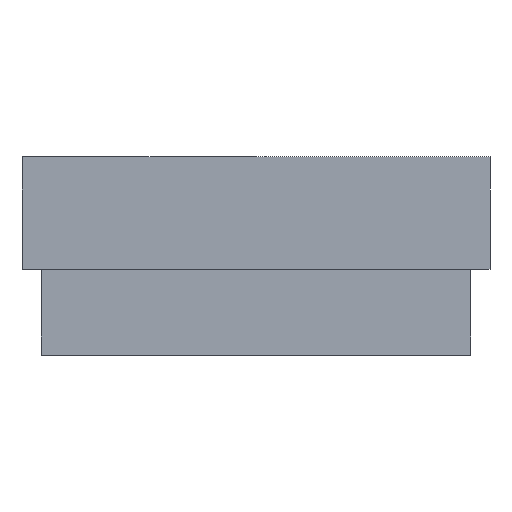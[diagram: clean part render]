
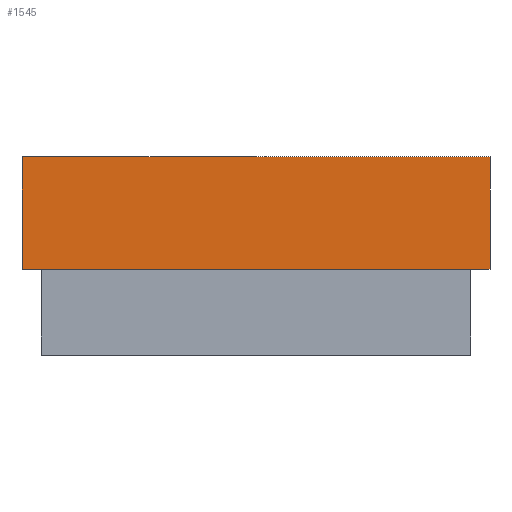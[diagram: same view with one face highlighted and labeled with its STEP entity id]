
A CAD part, left-side view. The second image highlights one B-rep face of the part: STEP entity #1545.
In plain terms, the highlighted planar face has unit normal (-1, 0, 0).
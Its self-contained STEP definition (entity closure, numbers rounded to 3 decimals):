
#126 = PLANE('',#127);
#127 = AXIS2_PLACEMENT_3D('',#128,#129,#130);
#128 = CARTESIAN_POINT('',(-27.285,-20.05,4.));
#129 = DIRECTION('',(0.,0.,1.));
#130 = DIRECTION('',(1.,0.,0.));
#166 = VERTEX_POINT('',#167);
#167 = CARTESIAN_POINT('',(-24.128,-20.05,4.));
#204 = PLANE('',#205);
#205 = AXIS2_PLACEMENT_3D('',#206,#207,#208);
#206 = CARTESIAN_POINT('',(-21.828,0.,4.));
#207 = DIRECTION('',(0.,0.,1.));
#208 = DIRECTION('',(1.,0.,-0.));
#498 = VERTEX_POINT('',#499);
#499 = CARTESIAN_POINT('',(-24.128,20.05,4.));
#522 = EDGE_CURVE('',#498,#166,#523,.T.);
#523 = SURFACE_CURVE('',#524,(#528,#535),.PCURVE_S1.);
#524 = LINE('',#525,#526);
#525 = CARTESIAN_POINT('',(-24.128,21.828,4.));
#526 = VECTOR('',#527,1.);
#527 = DIRECTION('',(0.,-1.,0.));
#528 = PCURVE('',#126,#529);
#529 = DEFINITIONAL_REPRESENTATION('',(#530),#534);
#530 = LINE('',#531,#532);
#531 = CARTESIAN_POINT('',(3.157,41.878));
#532 = VECTOR('',#533,1.);
#533 = DIRECTION('',(0.,-1.));
#534 = ( GEOMETRIC_REPRESENTATION_CONTEXT(2) 
PARAMETRIC_REPRESENTATION_CONTEXT() REPRESENTATION_CONTEXT('2D SPACE',''
  ) );
#535 = PCURVE('',#536,#541);
#536 = PLANE('',#537);
#537 = AXIS2_PLACEMENT_3D('',#538,#539,#540);
#538 = CARTESIAN_POINT('',(-24.128,21.828,4.));
#539 = DIRECTION('',(1.,0.,-0.));
#540 = DIRECTION('',(0.,-1.,0.));
#541 = DEFINITIONAL_REPRESENTATION('',(#542),#546);
#542 = LINE('',#543,#544);
#543 = CARTESIAN_POINT('',(0.,0.));
#544 = VECTOR('',#545,1.);
#545 = DIRECTION('',(1.,0.));
#546 = ( GEOMETRIC_REPRESENTATION_CONTEXT(2) 
PARAMETRIC_REPRESENTATION_CONTEXT() REPRESENTATION_CONTEXT('2D SPACE',''
  ) );
#592 = PLANE('',#593);
#593 = AXIS2_PLACEMENT_3D('',#594,#595,#596);
#594 = CARTESIAN_POINT('',(-21.828,0.,4.));
#595 = DIRECTION('',(0.,0.,1.));
#596 = DIRECTION('',(1.,0.,-0.));
#909 = EDGE_CURVE('',#166,#910,#912,.T.);
#910 = VERTEX_POINT('',#911);
#911 = CARTESIAN_POINT('',(-24.128,-21.828,4.));
#912 = SURFACE_CURVE('',#913,(#917,#924),.PCURVE_S1.);
#913 = LINE('',#914,#915);
#914 = CARTESIAN_POINT('',(-24.128,21.828,4.));
#915 = VECTOR('',#916,1.);
#916 = DIRECTION('',(0.,-1.,0.));
#917 = PCURVE('',#204,#918);
#918 = DEFINITIONAL_REPRESENTATION('',(#919),#923);
#919 = LINE('',#920,#921);
#920 = CARTESIAN_POINT('',(-2.3,21.828));
#921 = VECTOR('',#922,1.);
#922 = DIRECTION('',(0.,-1.));
#923 = ( GEOMETRIC_REPRESENTATION_CONTEXT(2) 
PARAMETRIC_REPRESENTATION_CONTEXT() REPRESENTATION_CONTEXT('2D SPACE',''
  ) );
#924 = PCURVE('',#536,#925);
#925 = DEFINITIONAL_REPRESENTATION('',(#926),#930);
#926 = LINE('',#927,#928);
#927 = CARTESIAN_POINT('',(0.,0.));
#928 = VECTOR('',#929,1.);
#929 = DIRECTION('',(1.,0.));
#930 = ( GEOMETRIC_REPRESENTATION_CONTEXT(2) 
PARAMETRIC_REPRESENTATION_CONTEXT() REPRESENTATION_CONTEXT('2D SPACE',''
  ) );
#948 = PLANE('',#949);
#949 = AXIS2_PLACEMENT_3D('',#950,#951,#952);
#950 = CARTESIAN_POINT('',(-24.128,-21.828,4.));
#951 = DIRECTION('',(0.,1.,0.));
#952 = DIRECTION('',(1.,0.,0.));
#1545 = ADVANCED_FACE('',(#1546),#536,.F.);
#1546 = FACE_BOUND('',#1547,.F.);
#1547 = EDGE_LOOP('',(#1548,#1578,#1606,#1627,#1628,#1629));
#1548 = ORIENTED_EDGE('',*,*,#1549,.T.);
#1549 = EDGE_CURVE('',#1550,#1552,#1554,.T.);
#1550 = VERTEX_POINT('',#1551);
#1551 = CARTESIAN_POINT('',(-24.128,21.828,4.));
#1552 = VERTEX_POINT('',#1553);
#1553 = CARTESIAN_POINT('',(-24.128,21.828,14.5));
#1554 = SURFACE_CURVE('',#1555,(#1559,#1566),.PCURVE_S1.);
#1555 = LINE('',#1556,#1557);
#1556 = CARTESIAN_POINT('',(-24.128,21.828,4.));
#1557 = VECTOR('',#1558,1.);
#1558 = DIRECTION('',(0.,0.,1.));
#1559 = PCURVE('',#536,#1560);
#1560 = DEFINITIONAL_REPRESENTATION('',(#1561),#1565);
#1561 = LINE('',#1562,#1563);
#1562 = CARTESIAN_POINT('',(0.,0.));
#1563 = VECTOR('',#1564,1.);
#1564 = DIRECTION('',(0.,-1.));
#1565 = ( GEOMETRIC_REPRESENTATION_CONTEXT(2) 
PARAMETRIC_REPRESENTATION_CONTEXT() REPRESENTATION_CONTEXT('2D SPACE',''
  ) );
#1566 = PCURVE('',#1567,#1572);
#1567 = PLANE('',#1568);
#1568 = AXIS2_PLACEMENT_3D('',#1569,#1570,#1571);
#1569 = CARTESIAN_POINT('',(-19.528,21.828,4.));
#1570 = DIRECTION('',(0.,-1.,0.));
#1571 = DIRECTION('',(-1.,0.,0.));
#1572 = DEFINITIONAL_REPRESENTATION('',(#1573),#1577);
#1573 = LINE('',#1574,#1575);
#1574 = CARTESIAN_POINT('',(4.6,0.));
#1575 = VECTOR('',#1576,1.);
#1576 = DIRECTION('',(0.,-1.));
#1577 = ( GEOMETRIC_REPRESENTATION_CONTEXT(2) 
PARAMETRIC_REPRESENTATION_CONTEXT() REPRESENTATION_CONTEXT('2D SPACE',''
  ) );
#1578 = ORIENTED_EDGE('',*,*,#1579,.T.);
#1579 = EDGE_CURVE('',#1552,#1580,#1582,.T.);
#1580 = VERTEX_POINT('',#1581);
#1581 = CARTESIAN_POINT('',(-24.128,-21.828,14.5));
#1582 = SURFACE_CURVE('',#1583,(#1587,#1594),.PCURVE_S1.);
#1583 = LINE('',#1584,#1585);
#1584 = CARTESIAN_POINT('',(-24.128,21.828,14.5));
#1585 = VECTOR('',#1586,1.);
#1586 = DIRECTION('',(0.,-1.,0.));
#1587 = PCURVE('',#536,#1588);
#1588 = DEFINITIONAL_REPRESENTATION('',(#1589),#1593);
#1589 = LINE('',#1590,#1591);
#1590 = CARTESIAN_POINT('',(0.,-10.5));
#1591 = VECTOR('',#1592,1.);
#1592 = DIRECTION('',(1.,0.));
#1593 = ( GEOMETRIC_REPRESENTATION_CONTEXT(2) 
PARAMETRIC_REPRESENTATION_CONTEXT() REPRESENTATION_CONTEXT('2D SPACE',''
  ) );
#1594 = PCURVE('',#1595,#1600);
#1595 = PLANE('',#1596);
#1596 = AXIS2_PLACEMENT_3D('',#1597,#1598,#1599);
#1597 = CARTESIAN_POINT('',(-21.828,0.,14.5));
#1598 = DIRECTION('',(0.,0.,1.));
#1599 = DIRECTION('',(1.,0.,-0.));
#1600 = DEFINITIONAL_REPRESENTATION('',(#1601),#1605);
#1601 = LINE('',#1602,#1603);
#1602 = CARTESIAN_POINT('',(-2.3,21.828));
#1603 = VECTOR('',#1604,1.);
#1604 = DIRECTION('',(0.,-1.));
#1605 = ( GEOMETRIC_REPRESENTATION_CONTEXT(2) 
PARAMETRIC_REPRESENTATION_CONTEXT() REPRESENTATION_CONTEXT('2D SPACE',''
  ) );
#1606 = ORIENTED_EDGE('',*,*,#1607,.F.);
#1607 = EDGE_CURVE('',#910,#1580,#1608,.T.);
#1608 = SURFACE_CURVE('',#1609,(#1613,#1620),.PCURVE_S1.);
#1609 = LINE('',#1610,#1611);
#1610 = CARTESIAN_POINT('',(-24.128,-21.828,4.));
#1611 = VECTOR('',#1612,1.);
#1612 = DIRECTION('',(0.,0.,1.));
#1613 = PCURVE('',#536,#1614);
#1614 = DEFINITIONAL_REPRESENTATION('',(#1615),#1619);
#1615 = LINE('',#1616,#1617);
#1616 = CARTESIAN_POINT('',(43.656,0.));
#1617 = VECTOR('',#1618,1.);
#1618 = DIRECTION('',(0.,-1.));
#1619 = ( GEOMETRIC_REPRESENTATION_CONTEXT(2) 
PARAMETRIC_REPRESENTATION_CONTEXT() REPRESENTATION_CONTEXT('2D SPACE',''
  ) );
#1620 = PCURVE('',#948,#1621);
#1621 = DEFINITIONAL_REPRESENTATION('',(#1622),#1626);
#1622 = LINE('',#1623,#1624);
#1623 = CARTESIAN_POINT('',(0.,0.));
#1624 = VECTOR('',#1625,1.);
#1625 = DIRECTION('',(0.,-1.));
#1626 = ( GEOMETRIC_REPRESENTATION_CONTEXT(2) 
PARAMETRIC_REPRESENTATION_CONTEXT() REPRESENTATION_CONTEXT('2D SPACE',''
  ) );
#1627 = ORIENTED_EDGE('',*,*,#909,.F.);
#1628 = ORIENTED_EDGE('',*,*,#522,.F.);
#1629 = ORIENTED_EDGE('',*,*,#1630,.F.);
#1630 = EDGE_CURVE('',#1550,#498,#1631,.T.);
#1631 = SURFACE_CURVE('',#1632,(#1636,#1643),.PCURVE_S1.);
#1632 = LINE('',#1633,#1634);
#1633 = CARTESIAN_POINT('',(-24.128,21.828,4.));
#1634 = VECTOR('',#1635,1.);
#1635 = DIRECTION('',(0.,-1.,0.));
#1636 = PCURVE('',#536,#1637);
#1637 = DEFINITIONAL_REPRESENTATION('',(#1638),#1642);
#1638 = LINE('',#1639,#1640);
#1639 = CARTESIAN_POINT('',(0.,0.));
#1640 = VECTOR('',#1641,1.);
#1641 = DIRECTION('',(1.,0.));
#1642 = ( GEOMETRIC_REPRESENTATION_CONTEXT(2) 
PARAMETRIC_REPRESENTATION_CONTEXT() REPRESENTATION_CONTEXT('2D SPACE',''
  ) );
#1643 = PCURVE('',#592,#1644);
#1644 = DEFINITIONAL_REPRESENTATION('',(#1645),#1649);
#1645 = LINE('',#1646,#1647);
#1646 = CARTESIAN_POINT('',(-2.3,21.828));
#1647 = VECTOR('',#1648,1.);
#1648 = DIRECTION('',(0.,-1.));
#1649 = ( GEOMETRIC_REPRESENTATION_CONTEXT(2) 
PARAMETRIC_REPRESENTATION_CONTEXT() REPRESENTATION_CONTEXT('2D SPACE',''
  ) );
